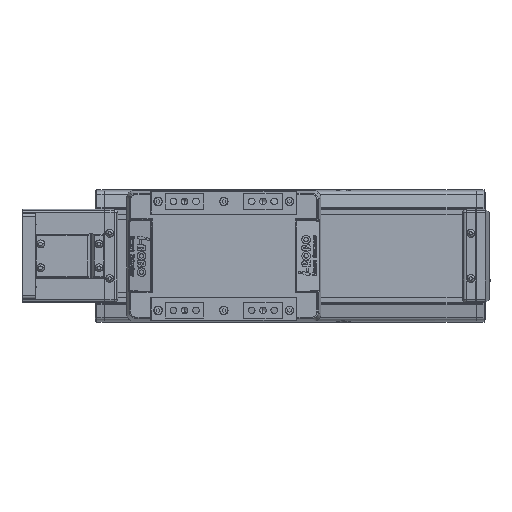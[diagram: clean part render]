
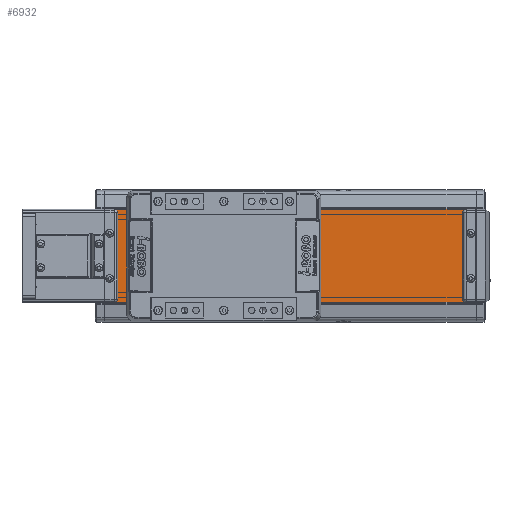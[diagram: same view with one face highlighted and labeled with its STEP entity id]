
A CAD part, top view. The second image highlights one B-rep face of the part: STEP entity #6932.
In plain terms, the highlighted planar face has unit normal (0, 0, 1).
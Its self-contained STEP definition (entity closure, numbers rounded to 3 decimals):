
#6932=ADVANCED_FACE('',(#14425),#14426,.T.);
#14425=FACE_OUTER_BOUND('',#23083,.T.);
#14426=PLANE('',#23084);
#23083=EDGE_LOOP('',(#43416,#43417,#43418,#43419));
#23084=AXIS2_PLACEMENT_3D('',#43420,#43421,#43422);
#43416=ORIENTED_EDGE('',*,*,#54743,.T.);
#43417=ORIENTED_EDGE('',*,*,#55121,.F.);
#43418=ORIENTED_EDGE('',*,*,#51073,.T.);
#43419=ORIENTED_EDGE('',*,*,#53723,.T.);
#43420=CARTESIAN_POINT('',(-580.,0.,20.15));
#43421=DIRECTION('',(0.,0.,1.0));
#43422=DIRECTION('',(0.,-1.0,0.));
#51073=EDGE_CURVE('',#62480,#62478,#62481,.T.);
#53723=EDGE_CURVE('',#62478,#66387,#66389,.T.);
#54743=EDGE_CURVE('',#66387,#67703,#67705,.T.);
#55121=EDGE_CURVE('',#62480,#67703,#68172,.T.);
#62478=VERTEX_POINT('',#78228);
#62480=VERTEX_POINT('',#78231);
#62481=LINE('',#78232,#78233);
#66387=VERTEX_POINT('',#83945);
#66389=LINE('',#83948,#83949);
#67703=VERTEX_POINT('',#85800);
#67705=LINE('',#85803,#85804);
#68172=LINE('',#86427,#86428);
#78228=CARTESIAN_POINT('',(-580.,-35.,20.15));
#78231=CARTESIAN_POINT('',(-580.,35.,20.15));
#78232=CARTESIAN_POINT('',(-580.,35.,20.15));
#78233=VECTOR('',#93612,10.0);
#83945=CARTESIAN_POINT('',(-300.,-35.,20.15));
#83948=CARTESIAN_POINT('',(-580.,-35.,20.15));
#83949=VECTOR('',#97193,10.0);
#85800=CARTESIAN_POINT('',(-300.,35.,20.15));
#85803=CARTESIAN_POINT('',(-300.,35.,20.15));
#85804=VECTOR('',#98468,10.0);
#86427=CARTESIAN_POINT('',(-580.,35.,20.15));
#86428=VECTOR('',#98934,10.0);
#93612=DIRECTION('',(0.,-1.0,0.));
#97193=DIRECTION('',(1.0,0.,0.));
#98468=DIRECTION('',(0.,1.0,0.));
#98934=DIRECTION('',(1.0,0.,0.));
